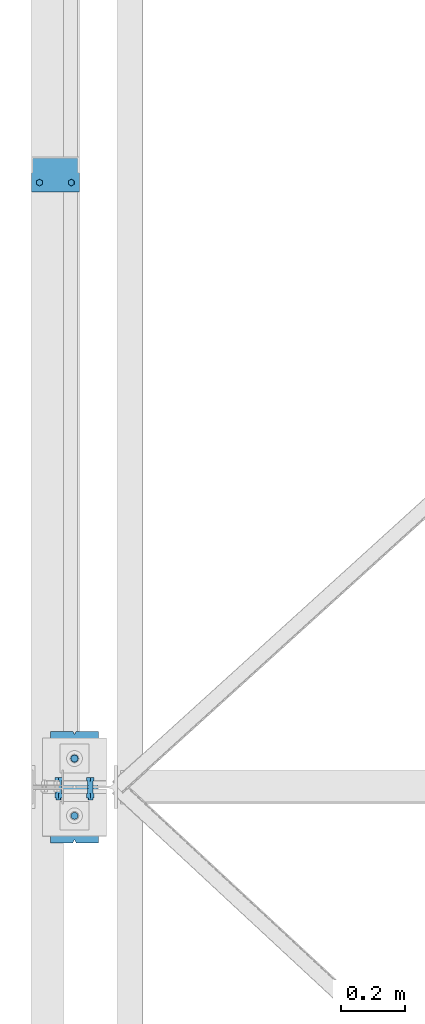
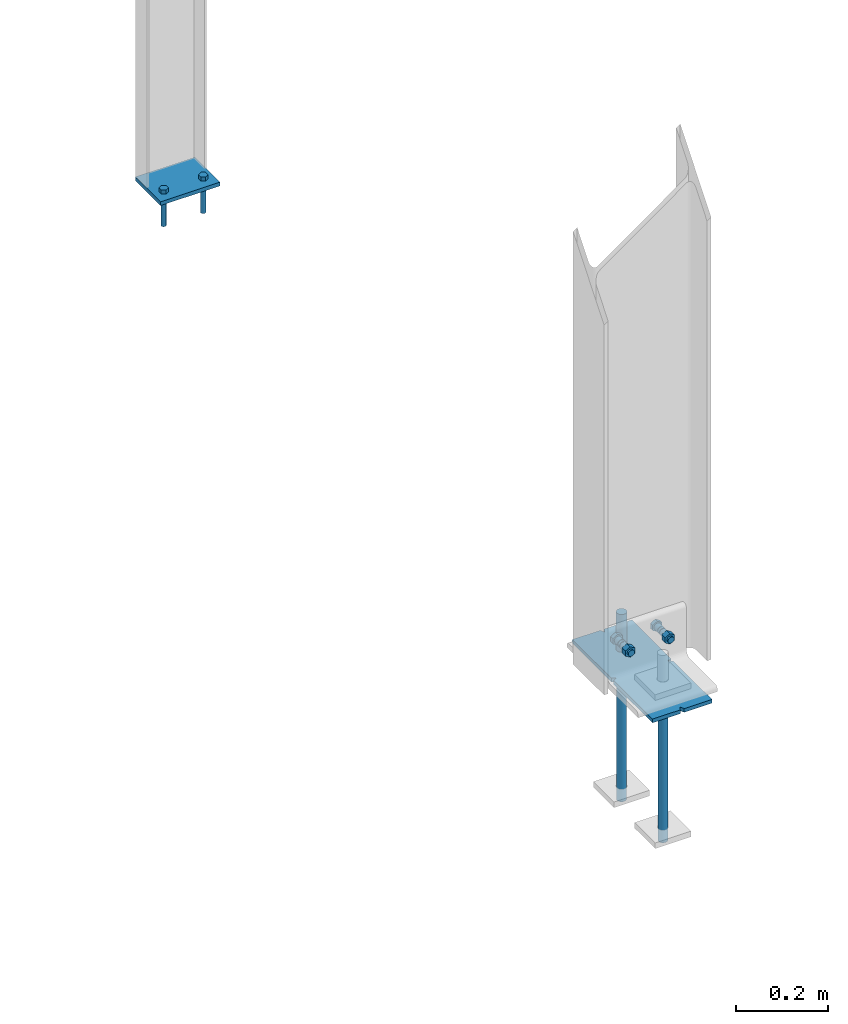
# One storey, part 74 of 123: 5 discrete accessories, 2 mechanical fasteners, 3 elements without a shape of their own.
"""IFC2X3 building model written with IfcOpenShell, lengths in millimetres."""

from ifc_helpers import new_model, si_unit, frame, origin_with_axes, origin_2d_with_axis, place, context, subcontext, project, spatial, polyline, circle, outline, extrude, boolean, source, transform, mapped, material, type_object, element, aggregate, save


model = new_model("IFC2X3")

# Units and contexts
model_context = context("Model", 3, precision=1e-05, world=origin_with_axes())
body_context = subcontext(model_context, "Body", "Model", "MODEL_VIEW")
ifc_project = project(units=[si_unit("LENGTHUNIT", "METRE", prefix="MILLI"), si_unit("AREAUNIT", "SQUARE_METRE"), si_unit("VOLUMEUNIT", "CUBIC_METRE"), si_unit("MASSUNIT", "GRAM", prefix="KILO"), si_unit("TIMEUNIT", "SECOND"), si_unit("PLANEANGLEUNIT", "RADIAN"), si_unit("SOLIDANGLEUNIT", "STERADIAN"), si_unit("THERMODYNAMICTEMPERATUREUNIT", "DEGREE_CELSIUS"), si_unit("LUMINOUSINTENSITYUNIT", "LUMEN")], contexts=[model_context])

# Site, building, storey
site_placement = place(None, origin_with_axes())
site = spatial("IfcSite", under=ifc_project, at=site_placement, Name="Undefined", CompositionType="ELEMENT")
building_placement = place(site_placement, origin_with_axes())
building = spatial("IfcBuilding", under=site, at=building_placement, Name="Undefined", CompositionType="ELEMENT")
storey_placement = place(building_placement, origin_with_axes())
storey = spatial("IfcBuildingStorey", under=building, at=storey_placement, Name="Undefined", CompositionType="ELEMENT", Elevation=0.0)

# Assembly, discrete accessory
assembly_1_placement = place(storey_placement, origin_with_axes())
assembly_1 = element("IfcElementAssembly", 1, at=assembly_1_placement, inside=storey, Name="Steel Assembly", AssemblyPlace="NOTDEFINED", PredefinedType="RIGID_FRAME")
ifc_material_1 = material(Name="STEEL/S235-E24")
discrete_accessory_type_1 = type_object("IfcDiscreteAccessoryType", Name="PLATINE")
discrete_accessory_1_placement = place(assembly_1_placement, frame((-105.000011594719, 13380.0066116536, -95.0), z_axis=(0.0, 0.0, 1.0), x_axis=(0.0, -1.0, 0.0)))
discrete_accessory_1 = element("IfcDiscreteAccessory", 2, at=discrete_accessory_1_placement, type_object=discrete_accessory_type_1, material=ifc_material_1, Name="PLATINE", ObjectType="PL10*150", context=body_context, shape_type="SweptSolid", body=[
    extrude(outline(polyline([(110.0, -75.0), (0.0, -75.0), (0.0, 75.0), (110.0, 75.0), (110.0, -75.0)])), frame((0.0, 0.0, -5.0), z_axis=(0.0, 0.0, 1.0), x_axis=(1.0, 0.0, 0.0)), (0.0, 0.0, 1.0), 10.0),
])

# Assembly, discrete accessories
assembly_2_placement = place(storey_placement, origin_with_axes())
assembly_2 = element("IfcElementAssembly", 3, at=assembly_2_placement, inside=storey, Name="Steel Assembly", AssemblyPlace="NOTDEFINED", PredefinedType="RIGID_FRAME")
discrete_accessory_type_2 = type_object("IfcDiscreteAccessoryType", Name="TIGE D'ANCRAGE")
discrete_accessory_2_placement = place(assembly_2_placement, frame((-45.0, 11309.9971504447, -300.0), z_axis=(-1.0, 0.0, 0.0), x_axis=(0.0, 0.0, -1.0)))
discrete_accessory_2 = element("IfcDiscreteAccessory", 4, at=discrete_accessory_2_placement, type_object=discrete_accessory_type_2, material=ifc_material_1, Name="TIGE D'ANCRAGE", ObjectType="D22", context=body_context, shape_type="SweptSolid", body=[
    extrude(circle(Radius=11.0, at=origin_2d_with_axis()), frame((350.0, 0.0, 0.0), z_axis=(-1.0, 0.0, 0.0), x_axis=(0.0, -1.0, 0.0)), (0.0, 0.0, 1.0), 350.0),
])
discrete_accessory_3_placement = place(assembly_2_placement, frame((-45.0, 11489.9971504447, -150.0), z_axis=(-1.0, 0.0, 0.0), x_axis=(0.0, 0.0, -1.0)))
discrete_accessory_3 = element("IfcDiscreteAccessory", 5, at=discrete_accessory_3_placement, type_object=discrete_accessory_type_2, material=ifc_material_1, Name="TIGE D'ANCRAGE", ObjectType="D24", context=body_context, shape_type="SweptSolid", body=[
    extrude(circle(Radius=12.0, at=origin_2d_with_axis()), frame((150.0, 0.0, 0.0), z_axis=(-1.0, 0.0, 0.0), x_axis=(0.0, -1.0, 0.0)), (0.0, 0.0, 1.0), 150.0),
])
discrete_accessory_4_placement = place(assembly_2_placement, frame((-45.0, 11489.9971504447, -300.0), z_axis=(-1.0, 0.0, 0.0), x_axis=(0.0, 0.0, -1.0)))
discrete_accessory_4 = element("IfcDiscreteAccessory", 6, at=discrete_accessory_4_placement, type_object=discrete_accessory_type_2, material=ifc_material_1, Name="TIGE D'ANCRAGE", ObjectType="D22", context=body_context, shape_type="SweptSolid", body=[
    extrude(circle(Radius=11.0, at=origin_2d_with_axis()), frame((350.0, 0.0, 0.0), z_axis=(-1.0, 0.0, 0.0), x_axis=(0.0, -1.0, 0.0)), (0.0, 0.0, 1.0), 350.0),
])
discrete_accessory_type_3 = type_object("IfcDiscreteAccessoryType", Name="PRESCELLEMENT PS24")
discrete_accessory_5_placement = place(assembly_2_placement, frame((-45.0, 11575.0, -255.0), z_axis=(0.0, 0.0, 1.0), x_axis=(0.0, -1.0, 0.0)))
discrete_accessory_5 = element("IfcDiscreteAccessory", 7, at=discrete_accessory_5_placement, type_object=discrete_accessory_type_3, material=ifc_material_1, Name="PRESCELLEMENT PS24", ObjectType="PL10*150", context=body_context, shape_type="CSG", body=[
    boolean("DIFFERENCE", boolean("DIFFERENCE", boolean("DIFFERENCE", boolean("DIFFERENCE", extrude(outline(polyline([(9.99999993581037, -3.76858224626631e-08), (0.0, 5.00000014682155), (0.0, 75.0), (170.0, 75.0), (174.999999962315, 65.0000000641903), (180.000000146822, 75.0), (350.0, 75.0), (350.0, 5.00000018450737), (340.0, 0.0), (350.0, -4.99999996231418), (350.0, -75.0), (180.0, -75.0), (175.000000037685, -65.0000000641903), (169.999999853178, -74.9999999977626), (0.0, -75.0), (0.0, -5.0), (9.99999993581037, -3.76858224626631e-08)])), frame((0.0, 0.0, -5.0), z_axis=(0.0, 0.0, 1.0), x_axis=(1.0, 0.0, 0.0)), (0.0, 0.0, 1.0), 10.0), extrude(outline(polyline([(0.0, 0.0), (11.1803398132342, 1.2732925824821e-11), (4.47213602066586, 8.94427204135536), (0.0, 0.0)])), frame((0.0, -5.0, -7.5), z_axis=(0.0, 0.0, 1.0), x_axis=(0.89442719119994, 0.44721359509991, 0.0)), (0.0, 0.0, 1.0), 15.0)), extrude(outline(polyline([(0.0, 0.0), (11.1803398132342, 1.2732925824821e-11), (4.47213602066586, 8.94427204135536), (0.0, 0.0)])), frame((180.0, -75.0, -7.5), z_axis=(0.0, 0.0, 1.0), x_axis=(-0.447213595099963, 0.894427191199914, 0.0)), (0.0, 0.0, 1.0), 15.0)), extrude(outline(polyline([(0.0, 0.0), (11.1803398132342, 1.2732925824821e-11), (6.70820379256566, 8.94427204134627), (0.0, 0.0)])), frame((340.0, 0.0, -7.5), z_axis=(0.0, 0.0, 1.0), x_axis=(0.89442719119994, -0.44721359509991, 0.0)), (0.0, 0.0, 1.0), 15.0)), extrude(outline(polyline([(0.0, 0.0), (11.1803398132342, 1.2732925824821e-11), (4.47213602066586, 8.94427204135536), (0.0, 0.0)])), frame((170.0, 75.0, -7.5), z_axis=(0.0, 0.0, 1.0), x_axis=(0.447213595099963, -0.894427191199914, 0.0)), (0.0, 0.0, 1.0), 15.0)),
])
aggregate(assembly_2, [discrete_accessory_2, discrete_accessory_3, discrete_accessory_4, discrete_accessory_5])

# Mechanical fastener
ifc_material_2 = material(Name="INOX_A4")
discrete_accessory_type_4 = type_object("IfcDiscreteAccessoryType", Name="Bolt assembly")
shared_shape_1 = source(origin_with_axes(), body_context, "Body", "SweptSolid", [
    extrude(circle(Radius=7.0, at=origin_2d_with_axis()), frame((0.0, -10.0, 0.0), z_axis=(0.0, 1.0, 0.0), x_axis=(1.0, 0.0, 0.0)), (0.0, 0.0, 1.0), 10.1),
    extrude(outline(polyline([(10.39230484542, 0.0), (5.19615242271, 9.00000000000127), (-5.19615242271, 9.00000000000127), (-10.39230484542, 0.0), (-5.19615242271, -9.00000000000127), (5.19615242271, -9.00000000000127), (10.39230484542, 0.0)])), frame((0.0, -20.8000001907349, 0.0), z_axis=(0.0, 1.0, 0.0), x_axis=(1.0, 0.0, 0.0)), (0.0, 0.0, 1.0), 10.8),
    extrude(circle(Radius=6.0, at=origin_2d_with_axis()), frame((0.0, -10.0, 0.0), z_axis=(0.0, 1.0, 0.0), x_axis=(1.0, 0.0, 0.0)), (0.0, 0.0, 1.0), 89.2),
    extrude(outline(polyline([(10.96965511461, 0.0), (5.484827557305, 9.50000000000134), (-5.484827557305, 9.50000000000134), (-10.96965511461, 0.0), (-5.484827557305, -9.50000000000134), (5.484827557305, -9.50000000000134), (10.96965511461, 0.0)])), frame((0.0, 0.0, 0.0), z_axis=(0.0, 1.0, 0.0), x_axis=(1.0, 0.0, 0.0)), (0.0, 0.0, 1.0), 12.0),
])
mechanical_fastener_1_placement = place(assembly_1_placement, frame((-105.000011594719, 13300.0066116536, -100.0), z_axis=(-1.0, 0.0, 0.0), x_axis=(0.0, 1.0, 0.0)))
mechanical_fastener_1 = element("IfcMechanicalFastener", 8, at=mechanical_fastener_1_placement, type_object=discrete_accessory_type_4, material=ifc_material_2, Name="Bolt assembly", NominalDiameter=12.0, NominalLength=89.1999969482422, context=body_context, shape_type="MappedRepresentation", body=[
    mapped(shared_shape_1, transform((0.0, 0.0, -50.0))),
    mapped(shared_shape_1, transform((0.0, 0.0, 50.0))),
])

aggregate(assembly_1, [mechanical_fastener_1, discrete_accessory_1])

# Assembly, mechanical fastener
assembly_3_placement = place(storey_placement, origin_with_axes())
assembly_3 = element("IfcElementAssembly", 9, at=assembly_3_placement, inside=storey, Name="Steel Assembly", AssemblyPlace="NOTDEFINED", PredefinedType="RIGID_FRAME")
ifc_material_3 = material(Name="8.8-SB-Z")
shared_shape_2 = source(origin_with_axes(), body_context, "Body", "SweptSolid", [
    extrude(circle(Radius=9.0, at=origin_2d_with_axis()), frame((0.0, -3.29999995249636, 0.0), z_axis=(0.0, 1.0, 0.0), x_axis=(1.0, 0.0, 0.0)), (0.0, 0.0, 1.0), 6.6),
    extrude(circle(Radius=9.0, at=origin_2d_with_axis()), frame((0.0, 4.90000000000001, 0.0), z_axis=(0.0, 1.0, 0.0), x_axis=(1.0, 0.0, 0.0)), (0.0, 0.0, 1.0), 15.1),
    extrude(circle(Radius=9.0, at=origin_2d_with_axis()), frame((0.0, -19.9, 0.0), z_axis=(0.0, 1.0, 0.0), x_axis=(1.0, 0.0, 0.0)), (0.0, 0.0, 1.0), 15.0),
    extrude(outline(polyline([(13.85640646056, 0.0), (6.92820323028, 12.0000000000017), (-6.92820323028, 12.0000000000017), (-13.85640646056, 0.0), (-6.92820323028, -12.0000000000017), (6.92820323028, -12.0000000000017), (13.85640646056, 0.0)])), frame((0.0, -30.0, 0.0), z_axis=(0.0, 1.0, 0.0), x_axis=(1.0, 0.0, 0.0)), (0.0, 0.0, 1.0), 10.0),
    extrude(circle(Radius=8.0, at=origin_2d_with_axis()), frame((0.0, -20.0, 0.0), z_axis=(0.0, 1.0, 0.0), x_axis=(1.0, 0.0, 0.0)), (0.0, 0.0, 1.0), 60.0),
    extrude(outline(polyline([(13.85640646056, 0.0), (6.92820323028, 12.0000000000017), (-6.92820323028, 12.0000000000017), (-13.85640646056, 0.0), (-6.92820323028, -12.0000000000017), (6.92820323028, -12.0000000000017), (13.85640646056, 0.0)])), frame((0.0, 20.0, 0.0), z_axis=(0.0, 1.0, 0.0), x_axis=(1.0, 0.0, 0.0)), (0.0, 0.0, 1.0), 14.8),
])
mechanical_fastener_2_placement = place(assembly_3_placement, frame((-45.0, 11400.0, -165.0), z_axis=(-1.0, 0.0, 0.0), x_axis=(0.0, 0.0, -1.0)))
mechanical_fastener_2 = element("IfcMechanicalFastener", 10, at=mechanical_fastener_2_placement, type_object=discrete_accessory_type_4, material=ifc_material_3, Name="Bolt assembly", NominalDiameter=16.0, NominalLength=60.0, context=body_context, shape_type="MappedRepresentation", body=[
    mapped(shared_shape_2, transform((0.0, 0.0, -50.0))),
    mapped(shared_shape_2, transform((0.0, 0.0, 50.0))),
])
aggregate(assembly_3, [mechanical_fastener_2])

save(model, "model.ifc")
